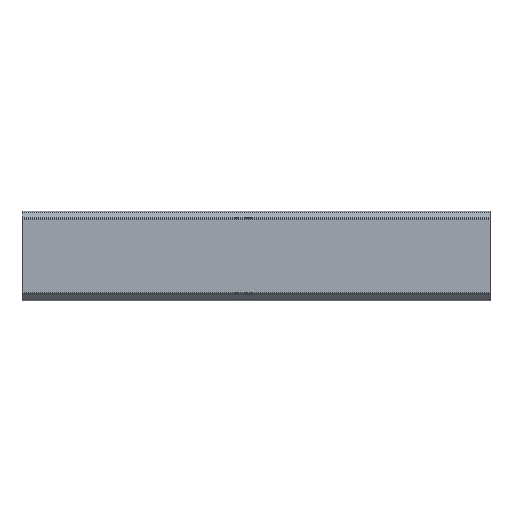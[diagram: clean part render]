
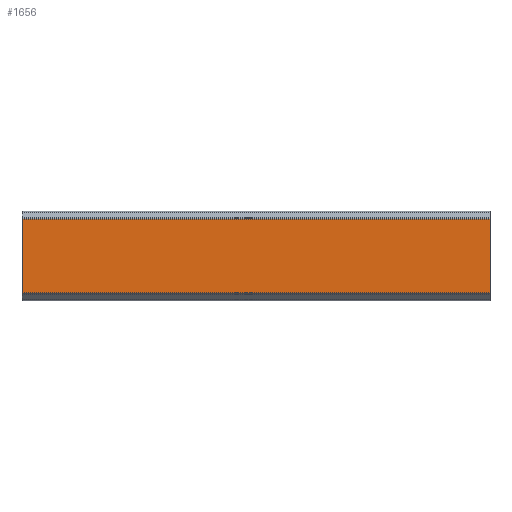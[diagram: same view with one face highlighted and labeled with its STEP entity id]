
A CAD part, top view. The second image highlights one B-rep face of the part: STEP entity #1656.
In plain terms, the highlighted planar face has unit normal (0, 0, 1).
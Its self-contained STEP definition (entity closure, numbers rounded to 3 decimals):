
#42 = VECTOR ( 'NONE', #353, 1000. ) ;
#48 = VERTEX_POINT ( 'NONE', #159 ) ;
#68 = ORIENTED_EDGE ( 'NONE', *, *, #613, .T. ) ;
#92 = LINE ( 'NONE', #1204, #42 ) ;
#120 = EDGE_CURVE ( 'NONE', #1309, #615, #92, .T. ) ;
#159 = CARTESIAN_POINT ( 'NONE',  ( 0., 41.75, 0. ) ) ;
#294 = AXIS2_PLACEMENT_3D ( 'NONE', #1777, #1632, #1498 ) ;
#349 = ORIENTED_EDGE ( 'NONE', *, *, #120, .F. ) ;
#353 = DIRECTION ( 'NONE',  ( 0., -1., 0. ) ) ;
#489 = EDGE_LOOP ( 'NONE', ( #68, #1357, #349, #1818 ) ) ;
#519 = DIRECTION ( 'NONE',  ( -1., 0., 0. ) ) ;
#542 = LINE ( 'NONE', #1522, #1741 ) ;
#613 = EDGE_CURVE ( 'NONE', #48, #902, #1318, .T. ) ;
#615 = VERTEX_POINT ( 'NONE', #1286 ) ;
#690 = CARTESIAN_POINT ( 'NONE',  ( 534., 41.75, 0. ) ) ;
#739 = CARTESIAN_POINT ( 'NONE',  ( 534., 41.75, 0. ) ) ;
#816 = VECTOR ( 'NONE', #1476, 1000. ) ;
#902 = VERTEX_POINT ( 'NONE', #1502 ) ;
#1004 = DIRECTION ( 'NONE',  ( 0., -1., 0. ) ) ;
#1127 = FACE_OUTER_BOUND ( 'NONE', #489, .T. ) ;
#1140 = EDGE_CURVE ( 'NONE', #615, #902, #542, .T. ) ;
#1201 = PLANE ( 'NONE',  #294 ) ;
#1204 = CARTESIAN_POINT ( 'NONE',  ( 534., 41.75, 0. ) ) ;
#1286 = CARTESIAN_POINT ( 'NONE',  ( 534., -41.75, 0. ) ) ;
#1299 = CARTESIAN_POINT ( 'NONE',  ( 0., 41.75, 0. ) ) ;
#1309 = VERTEX_POINT ( 'NONE', #690 ) ;
#1318 = LINE ( 'NONE', #1299, #1874 ) ;
#1357 = ORIENTED_EDGE ( 'NONE', *, *, #1140, .F. ) ;
#1476 = DIRECTION ( 'NONE',  ( -1., 0., 0. ) ) ;
#1498 = DIRECTION ( 'NONE',  ( 0., 1., 0. ) ) ;
#1502 = CARTESIAN_POINT ( 'NONE',  ( 0., -41.75, 0. ) ) ;
#1522 = CARTESIAN_POINT ( 'NONE',  ( 534., -41.75, 0. ) ) ;
#1567 = EDGE_CURVE ( 'NONE', #1309, #48, #1781, .T. ) ;
#1632 = DIRECTION ( 'NONE',  ( 0., 0., -1. ) ) ;
#1656 = ADVANCED_FACE ( 'NONE', ( #1127 ), #1201, .F. ) ;
#1741 = VECTOR ( 'NONE', #519, 1000. ) ;
#1777 = CARTESIAN_POINT ( 'NONE',  ( 534., 41.75, 0. ) ) ;
#1781 = LINE ( 'NONE', #739, #816 ) ;
#1818 = ORIENTED_EDGE ( 'NONE', *, *, #1567, .T. ) ;
#1874 = VECTOR ( 'NONE', #1004, 1000. ) ;
